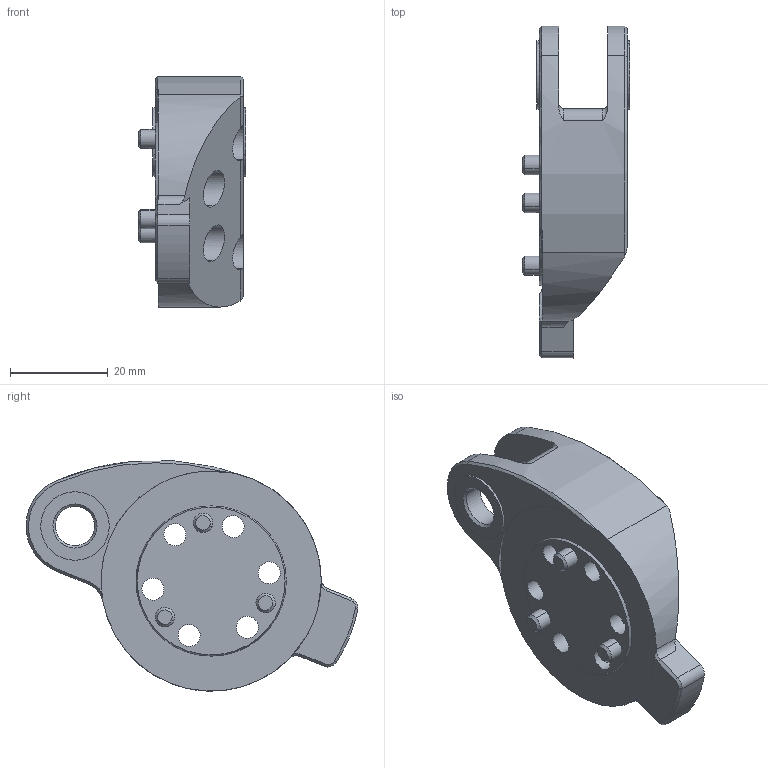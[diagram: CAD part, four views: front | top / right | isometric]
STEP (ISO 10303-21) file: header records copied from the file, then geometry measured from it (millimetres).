
FILE_DESCRIPTION((''),'2;1');
FILE_NAME('KD-D-502R_ANKLE-SHAFT-LEFT_1','2025-07-12T17:48:35',('Administrator'),(''),'CREO PARAMETRIC BY PTC INC, 2022073','CREO PARAMETRIC BY PTC INC, 2022073','');
FILE_SCHEMA(('CONFIG_CONTROL_DESIGN'));
Length unit declared in the file: millimetre
Products named in the file (1): KD-D-502R_ANKLE-SHAFT-LEFT_1
Bounding box: 22 x 67.8 x 47.04 mm (x, y, z)
Volume: 23944.6 mm3; surface area: 9642.6 mm2
Topology: 1 solids, 1 shells, 131 faces, 340 edges, 221 vertices
Faces by surface type: cylinder 60, cone 36, plane 29, torus 6
Entity records: 4323 total; most frequent: CARTESIAN_POINT 938, DIRECTION 746, ORIENTED_EDGE 680, EDGE_CURVE 340, AXIS2_PLACEMENT_3D 310, VERTEX_POINT 221, CIRCLE 179, EDGE_LOOP 157
